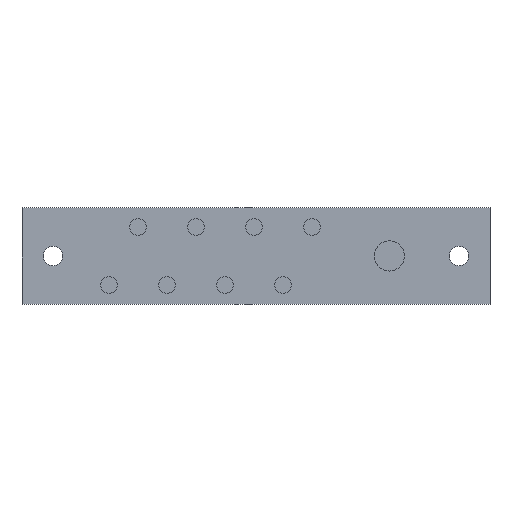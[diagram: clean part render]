
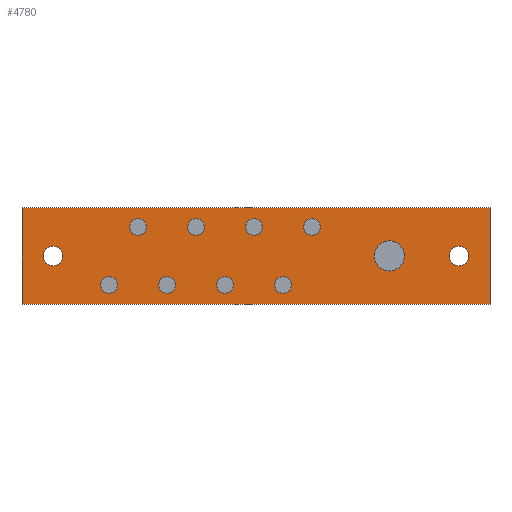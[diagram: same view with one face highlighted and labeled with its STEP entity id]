
A CAD part, top view. The second image highlights one B-rep face of the part: STEP entity #4780.
In plain terms, the highlighted planar face has unit normal (0, 0, 1).
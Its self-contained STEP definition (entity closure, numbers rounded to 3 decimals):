
#2150=CARTESIAN_POINT('',(249.512,66.46,3.));
#2160=VERTEX_POINT('',#2150);
#2190=CARTESIAN_POINT('',(128.512,66.46,3.));
#2200=DIRECTION('',(1.,0.,0.));
#2210=VECTOR('',#2200,1.);
#2220=LINE('',#2190,#2210);
#2230=CARTESIAN_POINT('',(128.512,66.46,3.));
#2240=VERTEX_POINT('',#2230);
#2250=EDGE_CURVE('',#2240,#2160,#2220,.T.);
#2460=CARTESIAN_POINT('',(249.512,41.46,3.));
#2470=VERTEX_POINT('',#2460);
#2500=CARTESIAN_POINT('',(249.512,66.46,3.));
#2510=DIRECTION('',(0.,-1.,0.));
#2520=VECTOR('',#2510,1.);
#2530=LINE('',#2500,#2520);
#2540=EDGE_CURVE('',#2160,#2470,#2530,.T.);
#2700=CARTESIAN_POINT('',(128.512,41.46,3.));
#2710=VERTEX_POINT('',#2700);
#2740=CARTESIAN_POINT('',(249.512,41.46,3.));
#2750=DIRECTION('',(-1.,0.,0.));
#2760=VECTOR('',#2750,1.);
#2770=LINE('',#2740,#2760);
#2780=EDGE_CURVE('',#2470,#2710,#2770,.T.);
#2910=CARTESIAN_POINT('',(128.512,41.46,3.));
#2920=DIRECTION('',(0.,1.,0.));
#2930=VECTOR('',#2920,1.);
#2940=LINE('',#2910,#2930);
#2950=EDGE_CURVE('',#2710,#2240,#2940,.T.);
#3020=CARTESIAN_POINT('',(0.,0.,3.));
#3030=DIRECTION('',(0.,0.,1.));
#3040=DIRECTION('',(1.,0.,0.));
#3050=AXIS2_PLACEMENT_3D('',#3020,#3030,#3040);
#3060=PLANE('',#3050);
#3070=ORIENTED_EDGE('',*,*,#2250,.F.);
#3080=ORIENTED_EDGE('',*,*,#2540,.F.);
#3090=ORIENTED_EDGE('',*,*,#2780,.F.);
#3100=ORIENTED_EDGE('',*,*,#2950,.F.);
#3110=EDGE_LOOP('',(#3100,#3090,#3080,#3070));
#3120=FACE_OUTER_BOUND('',#3110,.T.);
#3130=CARTESIAN_POINT('',(158.512,61.46,3.));
#3140=DIRECTION('',(0.,0.,-1.));
#3150=DIRECTION('',(1.,0.,0.));
#3160=AXIS2_PLACEMENT_3D('',#3130,#3140,#3150);
#3170=CIRCLE('',#3160,2.);
#3180=CARTESIAN_POINT('',(160.512,61.46,3.));
#3190=VERTEX_POINT('',#3180);
#3200=CARTESIAN_POINT('',(156.512,61.46,3.));
#3210=VERTEX_POINT('',#3200);
#3220=EDGE_CURVE('',#3190,#3210,#3170,.T.);
#3230=ORIENTED_EDGE('',*,*,#3220,.T.);
#3240=EDGE_CURVE('',#3210,#3190,#3170,.T.);
#3250=ORIENTED_EDGE('',*,*,#3240,.T.);
#3260=EDGE_LOOP('',(#3250,#3230));
#3270=FACE_BOUND('',#3260,.T.);
#3280=CARTESIAN_POINT('',(181.012,46.46,3.));
#3290=DIRECTION('',(0.,0.,-1.));
#3300=DIRECTION('',(-1.,0.,0.));
#3310=AXIS2_PLACEMENT_3D('',#3280,#3290,#3300);
#3320=CIRCLE('',#3310,2.);
#3330=CARTESIAN_POINT('',(183.012,46.46,3.));
#3340=VERTEX_POINT('',#3330);
#3350=CARTESIAN_POINT('',(179.012,46.46,3.));
#3360=VERTEX_POINT('',#3350);
#3370=EDGE_CURVE('',#3340,#3360,#3320,.T.);
#3380=ORIENTED_EDGE('',*,*,#3370,.T.);
#3390=EDGE_CURVE('',#3360,#3340,#3320,.T.);
#3400=ORIENTED_EDGE('',*,*,#3390,.T.);
#3410=EDGE_LOOP('',(#3400,#3380));
#3420=FACE_BOUND('',#3410,.T.);
#3430=CARTESIAN_POINT('',(241.512,53.96,3.));
#3440=DIRECTION('',(0.,0.,-1.));
#3450=DIRECTION('',(-1.,0.,0.));
#3460=AXIS2_PLACEMENT_3D('',#3430,#3440,#3450);
#3470=CIRCLE('',#3460,2.5);
#3480=CARTESIAN_POINT('',(244.012,53.96,3.));
#3490=VERTEX_POINT('',#3480);
#3500=CARTESIAN_POINT('',(239.012,53.96,3.));
#3510=VERTEX_POINT('',#3500);
#3520=EDGE_CURVE('',#3490,#3510,#3470,.T.);
#3530=ORIENTED_EDGE('',*,*,#3520,.T.);
#3540=EDGE_CURVE('',#3510,#3490,#3470,.T.);
#3550=ORIENTED_EDGE('',*,*,#3540,.T.);
#3560=EDGE_LOOP('',(#3550,#3530));
#3570=FACE_BOUND('',#3560,.T.);
#3580=CARTESIAN_POINT('',(196.012,46.46,3.));
#3590=DIRECTION('',(0.,0.,-1.));
#3600=DIRECTION('',(1.,0.,0.));
#3610=AXIS2_PLACEMENT_3D('',#3580,#3590,#3600);
#3620=CIRCLE('',#3610,2.);
#3630=CARTESIAN_POINT('',(194.012,46.46,3.));
#3640=VERTEX_POINT('',#3630);
#3650=CARTESIAN_POINT('',(198.012,46.46,3.));
#3660=VERTEX_POINT('',#3650);
#3670=EDGE_CURVE('',#3640,#3660,#3620,.T.);
#3680=ORIENTED_EDGE('',*,*,#3670,.T.);
#3690=EDGE_CURVE('',#3660,#3640,#3620,.T.);
#3700=ORIENTED_EDGE('',*,*,#3690,.T.);
#3710=EDGE_LOOP('',(#3700,#3680));
#3720=FACE_BOUND('',#3710,.T.);
#3730=CARTESIAN_POINT('',(136.512,53.96,3.));
#3740=DIRECTION('',(0.,0.,-1.));
#3750=DIRECTION('',(1.,0.,0.));
#3760=AXIS2_PLACEMENT_3D('',#3730,#3740,#3750);
#3770=CIRCLE('',#3760,2.5);
#3780=CARTESIAN_POINT('',(139.012,53.96,3.));
#3790=VERTEX_POINT('',#3780);
#3800=CARTESIAN_POINT('',(134.012,53.96,3.));
#3810=VERTEX_POINT('',#3800);
#3820=EDGE_CURVE('',#3790,#3810,#3770,.T.);
#3830=ORIENTED_EDGE('',*,*,#3820,.T.);
#3840=EDGE_CURVE('',#3810,#3790,#3770,.T.);
#3850=ORIENTED_EDGE('',*,*,#3840,.T.);
#3860=EDGE_LOOP('',(#3850,#3830));
#3870=FACE_BOUND('',#3860,.T.);
#3880=CARTESIAN_POINT('',(223.512,53.96,3.));
#3890=DIRECTION('',(0.,0.,-1.));
#3900=DIRECTION('',(-1.,0.,0.));
#3910=AXIS2_PLACEMENT_3D('',#3880,#3890,#3900);
#3920=CIRCLE('',#3910,3.5);
#3930=CARTESIAN_POINT('',(220.012,53.96,3.));
#3940=VERTEX_POINT('',#3930);
#3950=CARTESIAN_POINT('',(227.012,53.96,3.));
#3960=VERTEX_POINT('',#3950);
#3970=EDGE_CURVE('',#3940,#3960,#3920,.T.);
#3980=ORIENTED_EDGE('',*,*,#3970,.T.);
#3990=EDGE_CURVE('',#3960,#3940,#3920,.T.);
#4000=ORIENTED_EDGE('',*,*,#3990,.T.);
#4010=EDGE_LOOP('',(#4000,#3980));
#4020=FACE_BOUND('',#4010,.T.);
#4030=CARTESIAN_POINT('',(188.512,61.46,3.));
#4040=DIRECTION('',(0.,0.,-1.));
#4050=DIRECTION('',(-1.,0.,0.));
#4060=AXIS2_PLACEMENT_3D('',#4030,#4040,#4050);
#4070=CIRCLE('',#4060,2.);
#4080=CARTESIAN_POINT('',(190.512,61.46,3.));
#4090=VERTEX_POINT('',#4080);
#4100=CARTESIAN_POINT('',(186.512,61.46,3.));
#4110=VERTEX_POINT('',#4100);
#4120=EDGE_CURVE('',#4090,#4110,#4070,.T.);
#4130=ORIENTED_EDGE('',*,*,#4120,.T.);
#4140=EDGE_CURVE('',#4110,#4090,#4070,.T.);
#4150=ORIENTED_EDGE('',*,*,#4140,.T.);
#4160=EDGE_LOOP('',(#4150,#4130));
#4170=FACE_BOUND('',#4160,.T.);
#4180=CARTESIAN_POINT('',(203.512,61.46,3.));
#4190=DIRECTION('',(0.,0.,-1.));
#4200=DIRECTION('',(-1.,0.,0.));
#4210=AXIS2_PLACEMENT_3D('',#4180,#4190,#4200);
#4220=CIRCLE('',#4210,2.);
#4230=CARTESIAN_POINT('',(205.512,61.46,3.));
#4240=VERTEX_POINT('',#4230);
#4250=CARTESIAN_POINT('',(201.512,61.46,3.));
#4260=VERTEX_POINT('',#4250);
#4270=EDGE_CURVE('',#4240,#4260,#4220,.T.);
#4280=ORIENTED_EDGE('',*,*,#4270,.T.);
#4290=EDGE_CURVE('',#4260,#4240,#4220,.T.);
#4300=ORIENTED_EDGE('',*,*,#4290,.T.);
#4310=EDGE_LOOP('',(#4300,#4280));
#4320=FACE_BOUND('',#4310,.T.);
#4330=CARTESIAN_POINT('',(151.012,46.46,3.));
#4340=DIRECTION('',(0.,0.,-1.));
#4350=DIRECTION('',(1.,0.,0.));
#4360=AXIS2_PLACEMENT_3D('',#4330,#4340,#4350);
#4370=CIRCLE('',#4360,2.);
#4380=CARTESIAN_POINT('',(153.012,46.46,3.));
#4390=VERTEX_POINT('',#4380);
#4400=CARTESIAN_POINT('',(149.012,46.46,3.));
#4410=VERTEX_POINT('',#4400);
#4420=EDGE_CURVE('',#4390,#4410,#4370,.T.);
#4430=ORIENTED_EDGE('',*,*,#4420,.T.);
#4440=EDGE_CURVE('',#4410,#4390,#4370,.T.);
#4450=ORIENTED_EDGE('',*,*,#4440,.T.);
#4460=EDGE_LOOP('',(#4450,#4430));
#4470=FACE_BOUND('',#4460,.T.);
#4480=CARTESIAN_POINT('',(166.012,46.46,3.));
#4490=DIRECTION('',(0.,0.,-1.));
#4500=DIRECTION('',(-1.,0.,0.));
#4510=AXIS2_PLACEMENT_3D('',#4480,#4490,#4500);
#4520=CIRCLE('',#4510,2.);
#4530=CARTESIAN_POINT('',(164.012,46.46,3.));
#4540=VERTEX_POINT('',#4530);
#4550=CARTESIAN_POINT('',(168.012,46.46,3.));
#4560=VERTEX_POINT('',#4550);
#4570=EDGE_CURVE('',#4540,#4560,#4520,.T.);
#4580=ORIENTED_EDGE('',*,*,#4570,.T.);
#4590=EDGE_CURVE('',#4560,#4540,#4520,.T.);
#4600=ORIENTED_EDGE('',*,*,#4590,.T.);
#4610=EDGE_LOOP('',(#4600,#4580));
#4620=FACE_BOUND('',#4610,.T.);
#4630=CARTESIAN_POINT('',(173.512,61.46,3.));
#4640=DIRECTION('',(0.,0.,-1.));
#4650=DIRECTION('',(-1.,0.,0.));
#4660=AXIS2_PLACEMENT_3D('',#4630,#4640,#4650);
#4670=CIRCLE('',#4660,2.);
#4680=CARTESIAN_POINT('',(171.512,61.46,3.));
#4690=VERTEX_POINT('',#4680);
#4700=CARTESIAN_POINT('',(175.512,61.46,3.));
#4710=VERTEX_POINT('',#4700);
#4720=EDGE_CURVE('',#4690,#4710,#4670,.T.);
#4730=ORIENTED_EDGE('',*,*,#4720,.T.);
#4740=EDGE_CURVE('',#4710,#4690,#4670,.T.);
#4750=ORIENTED_EDGE('',*,*,#4740,.T.);
#4760=EDGE_LOOP('',(#4750,#4730));
#4770=FACE_BOUND('',#4760,.T.);
#4780=ADVANCED_FACE('',(#3120,#3270,#3420,#3570,#3720,#3870,#4020,#4170,
#4320,#4470,#4620,#4770),#3060,.T.);
